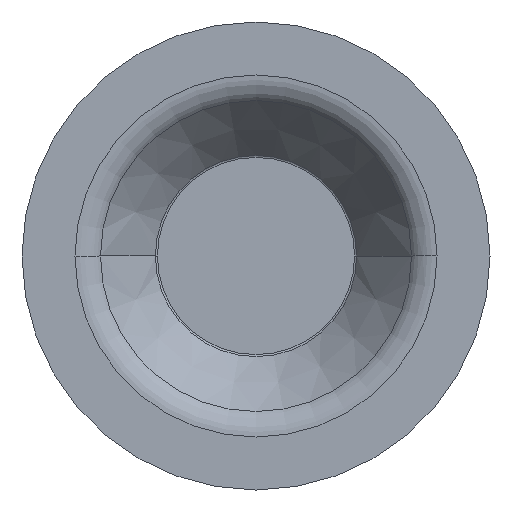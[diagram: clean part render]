
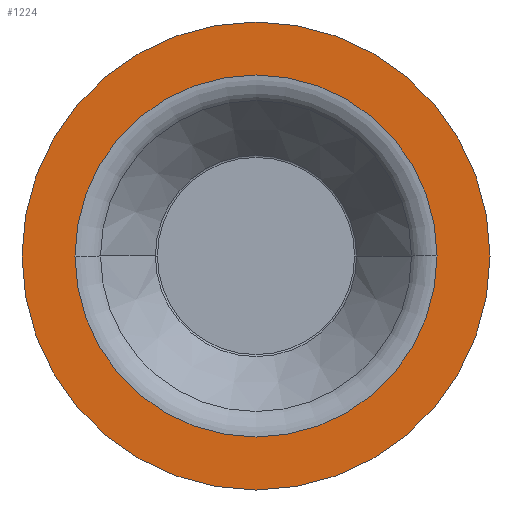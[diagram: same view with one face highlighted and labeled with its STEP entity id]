
A CAD part, front view. The second image highlights one B-rep face of the part: STEP entity #1224.
In plain terms, the highlighted planar face has unit normal (0, -1, 0).
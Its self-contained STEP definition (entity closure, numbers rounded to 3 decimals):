
#7 = CARTESIAN_POINT ( 'NONE',  ( 0., -22., 0. ) ) ;
#52 = DIRECTION ( 'NONE',  ( 1., 0., 0. ) ) ;
#90 = FACE_BOUND ( 'NONE', #1019, .T. ) ;
#101 = EDGE_LOOP ( 'NONE', ( #443, #588 ) ) ;
#143 = EDGE_CURVE ( 'NONE', #447, #1495, #523, .T. ) ;
#156 = DIRECTION ( 'NONE',  ( 1., 0., 0. ) ) ;
#353 = AXIS2_PLACEMENT_3D ( 'NONE', #609, #587, #1387 ) ;
#420 = DIRECTION ( 'NONE',  ( -1., 0., 0. ) ) ;
#423 = DIRECTION ( 'NONE',  ( -1., 0., 0. ) ) ;
#443 = ORIENTED_EDGE ( 'NONE', *, *, #143, .T. ) ;
#447 = VERTEX_POINT ( 'NONE', #570 ) ;
#523 = CIRCLE ( 'NONE', #1165, 47.5 ) ;
#545 = AXIS2_PLACEMENT_3D ( 'NONE', #566, #1062, #52 ) ;
#566 = CARTESIAN_POINT ( 'NONE',  ( 0., -22., 0. ) ) ;
#570 = CARTESIAN_POINT ( 'NONE',  ( 47.5, -22., 0. ) ) ;
#578 = CARTESIAN_POINT ( 'NONE',  ( 0., -22., 0. ) ) ;
#587 = DIRECTION ( 'NONE',  ( 0., -1., 0. ) ) ;
#588 = ORIENTED_EDGE ( 'NONE', *, *, #796, .T. ) ;
#591 = EDGE_CURVE ( 'NONE', #1077, #627, #1094, .T. ) ;
#609 = CARTESIAN_POINT ( 'NONE',  ( 47.5, -22., 0. ) ) ;
#627 = VERTEX_POINT ( 'NONE', #1047 ) ;
#647 = CARTESIAN_POINT ( 'NONE',  ( 0., -22., 0. ) ) ;
#796 = EDGE_CURVE ( 'NONE', #1495, #447, #1600, .T. ) ;
#924 = CARTESIAN_POINT ( 'NONE',  ( -36.744, -22., 0. ) ) ;
#971 = FACE_OUTER_BOUND ( 'NONE', #101, .T. ) ;
#1019 = EDGE_LOOP ( 'NONE', ( #1473, #1089 ) ) ;
#1044 = CIRCLE ( 'NONE', #1201, 36.744 ) ;
#1047 = CARTESIAN_POINT ( 'NONE',  ( 36.744, -22., 0. ) ) ;
#1062 = DIRECTION ( 'NONE',  ( 0., -1., 0. ) ) ;
#1064 = EDGE_CURVE ( 'NONE', #627, #1077, #1044, .T. ) ;
#1077 = VERTEX_POINT ( 'NONE', #924 ) ;
#1089 = ORIENTED_EDGE ( 'NONE', *, *, #1064, .F. ) ;
#1094 = CIRCLE ( 'NONE', #1163, 36.744 ) ;
#1155 = DIRECTION ( 'NONE',  ( 0., -1., 0. ) ) ;
#1163 = AXIS2_PLACEMENT_3D ( 'NONE', #7, #1555, #420 ) ;
#1165 = AXIS2_PLACEMENT_3D ( 'NONE', #647, #1155, #156 ) ;
#1201 = AXIS2_PLACEMENT_3D ( 'NONE', #578, #1591, #423 ) ;
#1224 = ADVANCED_FACE ( 'NONE', ( #90, #971 ), #1504, .T. ) ;
#1387 = DIRECTION ( 'NONE',  ( 1., 0., 0. ) ) ;
#1473 = ORIENTED_EDGE ( 'NONE', *, *, #591, .F. ) ;
#1495 = VERTEX_POINT ( 'NONE', #1543 ) ;
#1504 = PLANE ( 'NONE',  #353 ) ;
#1543 = CARTESIAN_POINT ( 'NONE',  ( -47.5, -22., 0. ) ) ;
#1555 = DIRECTION ( 'NONE',  ( 0., -1., 0. ) ) ;
#1591 = DIRECTION ( 'NONE',  ( 0., -1., 0. ) ) ;
#1600 = CIRCLE ( 'NONE', #545, 47.5 ) ;
